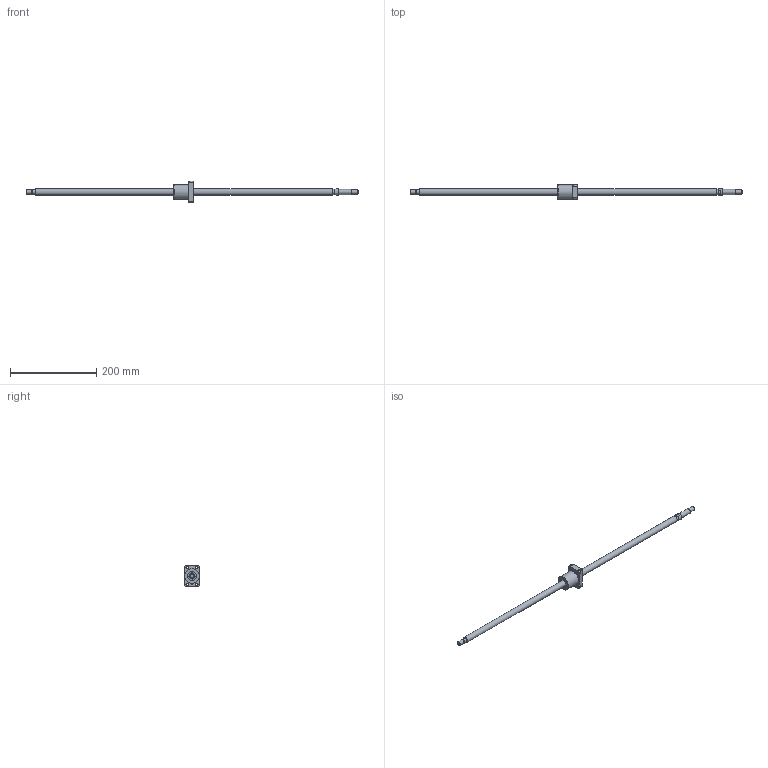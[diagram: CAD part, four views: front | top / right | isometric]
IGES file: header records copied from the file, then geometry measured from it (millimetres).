
Start section: Data from Parasolid IGES Translator 26.0.171, Copyright(c) 2006 Siemens PLM Software. All Rights Reserved.
Global section: file name: BNK1408-2.5RRG0+771LC5Y(367.50).igs; native system: By Siemens PLM Incorporated; preprocessor: XPlus GENERIC/IGES 26.0.171; author: Noname; organization: Noname; date: 20240709.091757; units: millimetre
Bounding box: 771 x 34 x 50 mm (x, y, z)
Surface area: 45556.7 mm2 (no closed solid volume)
Topology: 0 solids, 0 shells, 74 faces, 325 edges, 281 vertices
Faces by surface type: revolution 46, extrusion 28
